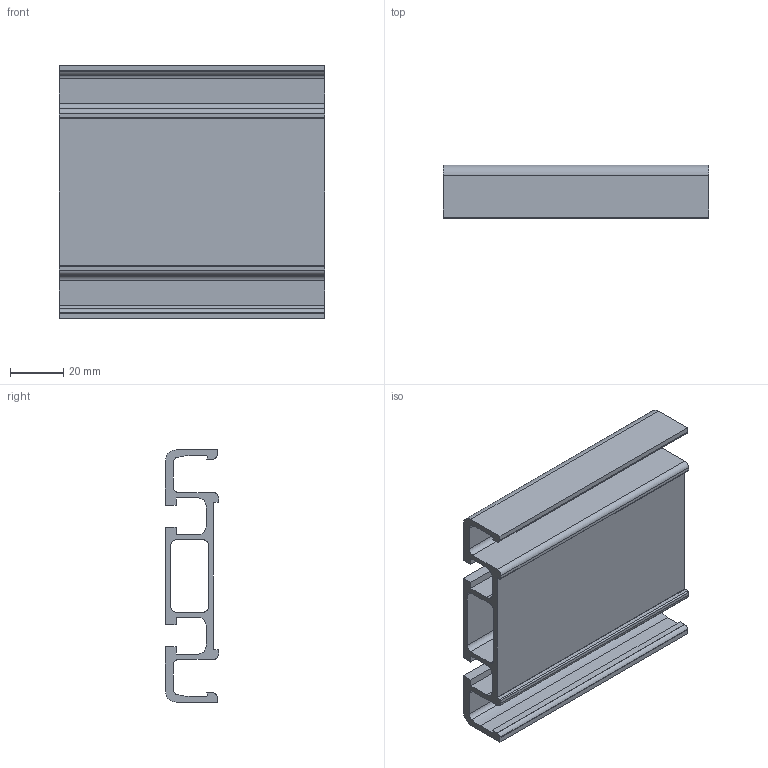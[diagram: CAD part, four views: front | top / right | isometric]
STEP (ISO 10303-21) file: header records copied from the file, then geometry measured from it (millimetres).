
FILE_DESCRIPTION (( 'STEP AP214' ), '1' );
FILE_NAME ('800.100.001.STEP', '2020-07-23T08:59:59', ( '' ), ( '' ), 'SwSTEP 2.0', 'SolidWorks 2018', '' );
FILE_SCHEMA (( 'AUTOMOTIVE_DESIGN' ));
Length unit declared in the file: millimetre
Products named in the file (1): 800.100.001
Bounding box: 100 x 20 x 95 mm (x, y, z)
Volume: 56752.8 mm3; surface area: 46272.6 mm2
Topology: 1 solids, 1 shells, 72 faces, 210 edges, 140 vertices
Faces by surface type: plane 42, cylinder 30
Entity records: 2432 total; most frequent: CARTESIAN_POINT 423, ORIENTED_EDGE 420, DIRECTION 416, EDGE_CURVE 210, VECTOR 150, LINE 150, VERTEX_POINT 140, AXIS2_PLACEMENT_3D 133
